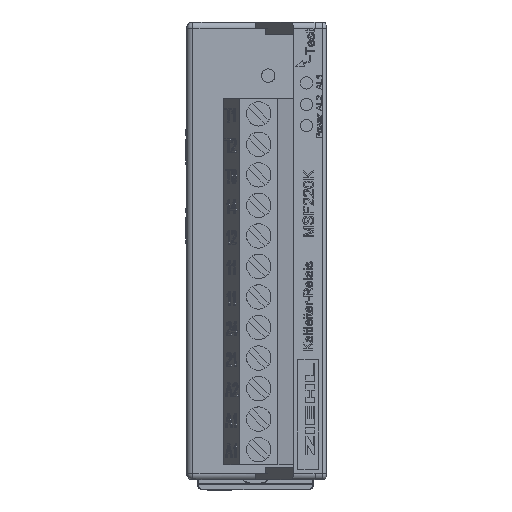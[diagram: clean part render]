
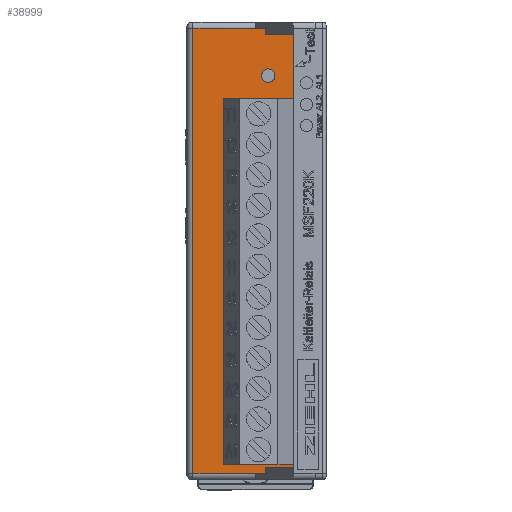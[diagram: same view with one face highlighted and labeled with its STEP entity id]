
A CAD part, left-side view. The second image highlights one B-rep face of the part: STEP entity #38999.
In plain terms, the highlighted planar face has unit normal (-1, 0, 0) as drawn and (1, 0, 0) by its records, which use the part's own axes.
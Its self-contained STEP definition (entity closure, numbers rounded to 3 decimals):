
#6317 = CARTESIAN_POINT ( 'NONE',  ( 30., -16.3, 35.5 ) ) ;
#6554 = DIRECTION ( 'NONE',  ( 0., 0., 1. ) ) ;
#6564 = EDGE_CURVE ( 'NONE', #33377, #138121, #71293, .T. ) ;
#16102 = CARTESIAN_POINT ( 'NONE',  ( 30., 1.2, -36.5 ) ) ;
#16814 = VECTOR ( 'NONE', #131906, 1000. ) ;
#17852 = DIRECTION ( 'NONE',  ( 0., -1., 0. ) ) ;
#19196 = LINE ( 'NONE', #62277, #63903 ) ;
#19956 = LINE ( 'NONE', #6317, #137907 ) ;
#20759 = VECTOR ( 'NONE', #84702, 1000. ) ;
#22157 = DIRECTION ( 'NONE',  ( 0., 0., 1. ) ) ;
#22793 = CARTESIAN_POINT ( 'NONE',  ( 30., -16.3, -35.5 ) ) ;
#28569 = EDGE_CURVE ( 'NONE', #45693, #95657, #49182, .T. ) ;
#30206 = LINE ( 'NONE', #103377, #130397 ) ;
#33084 = CARTESIAN_POINT ( 'NONE',  ( 30., 1.2, 37.5 ) ) ;
#33377 = VERTEX_POINT ( 'NONE', #38274 ) ;
#33788 = CARTESIAN_POINT ( 'NONE',  ( 30., -10.082, -36.5 ) ) ;
#34404 = CARTESIAN_POINT ( 'NONE',  ( 30., -14.3, 35.5 ) ) ;
#35099 = CARTESIAN_POINT ( 'NONE',  ( 30., -16.3, 36.5 ) ) ;
#35466 = ORIENTED_EDGE ( 'NONE', *, *, #143863, .T. ) ;
#37495 = LINE ( 'NONE', #127820, #53463 ) ;
#38274 = CARTESIAN_POINT ( 'NONE',  ( 30., -14.3, -36.5 ) ) ;
#38999 = ADVANCED_FACE ( 'NONE', ( #114860 ), #136473, .F. ) ;
#40892 = CARTESIAN_POINT ( 'NONE',  ( 30., -14.3, -35.5 ) ) ;
#45693 = VERTEX_POINT ( 'NONE', #76563 ) ;
#48081 = VECTOR ( 'NONE', #74002, 1000. ) ;
#49182 = LINE ( 'NONE', #93090, #20759 ) ;
#52725 = DIRECTION ( 'NONE',  ( 0., 1., 0. ) ) ;
#53463 = VECTOR ( 'NONE', #105321, 1000. ) ;
#53823 = VERTEX_POINT ( 'NONE', #128263 ) ;
#54449 = CARTESIAN_POINT ( 'NONE',  ( 30., -10.082, 36.5 ) ) ;
#60164 = CARTESIAN_POINT ( 'NONE',  ( 30., 0.2, -36.5 ) ) ;
#62277 = CARTESIAN_POINT ( 'NONE',  ( 30., -16.3, -35.5 ) ) ;
#63903 = VECTOR ( 'NONE', #17852, 1000. ) ;
#63969 = ORIENTED_EDGE ( 'NONE', *, *, #116935, .T. ) ;
#71293 = LINE ( 'NONE', #109933, #119618 ) ;
#72967 = CARTESIAN_POINT ( 'NONE',  ( 30., -14.3, 35.5 ) ) ;
#74002 = DIRECTION ( 'NONE',  ( 0., 1., 0. ) ) ;
#74519 = CARTESIAN_POINT ( 'NONE',  ( 30., 0.2, 36.5 ) ) ;
#74716 = EDGE_CURVE ( 'NONE', #53823, #106254, #19956, .T. ) ;
#76563 = CARTESIAN_POINT ( 'NONE',  ( 30., -14.3, 36.5 ) ) ;
#77136 = AXIS2_PLACEMENT_3D ( 'NONE', #33084, #147897, #137415 ) ;
#77302 = ORIENTED_EDGE ( 'NONE', *, *, #127908, .T. ) ;
#77819 = LINE ( 'NONE', #122746, #134986 ) ;
#82893 = VERTEX_POINT ( 'NONE', #22793 ) ;
#84702 = DIRECTION ( 'NONE',  ( 0., 1., 0. ) ) ;
#86281 = ORIENTED_EDGE ( 'NONE', *, *, #74716, .F. ) ;
#89745 = ORIENTED_EDGE ( 'NONE', *, *, #106533, .F. ) ;
#93090 = CARTESIAN_POINT ( 'NONE',  ( 30., -16.3, 36.5 ) ) ;
#95657 = VERTEX_POINT ( 'NONE', #54449 ) ;
#95876 = EDGE_CURVE ( 'NONE', #106254, #45693, #102636, .T. ) ;
#99979 = LINE ( 'NONE', #35099, #125104 ) ;
#101933 = VERTEX_POINT ( 'NONE', #74519 ) ;
#102636 = LINE ( 'NONE', #72967, #16814 ) ;
#103377 = CARTESIAN_POINT ( 'NONE',  ( 30., 1.2, 36.5 ) ) ;
#104913 = EDGE_CURVE ( 'NONE', #82893, #53823, #99979, .T. ) ;
#105321 = DIRECTION ( 'NONE',  ( 0., 0., 1. ) ) ;
#106254 = VERTEX_POINT ( 'NONE', #34404 ) ;
#106533 = EDGE_CURVE ( 'NONE', #138121, #82893, #19196, .T. ) ;
#109208 = DIRECTION ( 'NONE',  ( 0., 1., 0. ) ) ;
#109446 = EDGE_LOOP ( 'NONE', ( #35466, #63969, #145993, #116176, #86281, #120903, #89745, #127621, #141431, #77302 ) ) ;
#109933 = CARTESIAN_POINT ( 'NONE',  ( 30., -14.3, -37.5 ) ) ;
#114860 = FACE_OUTER_BOUND ( 'NONE', #109446, .T. ) ;
#114884 = DIRECTION ( 'NONE',  ( 0., -1., 0. ) ) ;
#116176 = ORIENTED_EDGE ( 'NONE', *, *, #95876, .F. ) ;
#116935 = EDGE_CURVE ( 'NONE', #101933, #95657, #30206, .T. ) ;
#118336 = VERTEX_POINT ( 'NONE', #60164 ) ;
#119026 = EDGE_CURVE ( 'NONE', #33377, #142387, #77819, .T. ) ;
#119618 = VECTOR ( 'NONE', #6554, 1000. ) ;
#120903 = ORIENTED_EDGE ( 'NONE', *, *, #104913, .F. ) ;
#122746 = CARTESIAN_POINT ( 'NONE',  ( 30., -16.3, -36.5 ) ) ;
#125104 = VECTOR ( 'NONE', #22157, 1000. ) ;
#127621 = ORIENTED_EDGE ( 'NONE', *, *, #6564, .F. ) ;
#127820 = CARTESIAN_POINT ( 'NONE',  ( 30., 0.2, 37.5 ) ) ;
#127908 = EDGE_CURVE ( 'NONE', #142387, #118336, #141020, .T. ) ;
#128263 = CARTESIAN_POINT ( 'NONE',  ( 30., -16.3, 35.5 ) ) ;
#130397 = VECTOR ( 'NONE', #114884, 1000. ) ;
#131906 = DIRECTION ( 'NONE',  ( 0., 0., 1. ) ) ;
#134986 = VECTOR ( 'NONE', #52725, 1000. ) ;
#136473 = PLANE ( 'NONE',  #77136 ) ;
#137415 = DIRECTION ( 'NONE',  ( 0., 0., 1. ) ) ;
#137907 = VECTOR ( 'NONE', #109208, 1000. ) ;
#138121 = VERTEX_POINT ( 'NONE', #40892 ) ;
#141020 = LINE ( 'NONE', #16102, #48081 ) ;
#141431 = ORIENTED_EDGE ( 'NONE', *, *, #119026, .T. ) ;
#142387 = VERTEX_POINT ( 'NONE', #33788 ) ;
#143863 = EDGE_CURVE ( 'NONE', #118336, #101933, #37495, .T. ) ;
#145993 = ORIENTED_EDGE ( 'NONE', *, *, #28569, .F. ) ;
#147897 = DIRECTION ( 'NONE',  ( -1., 0., 0. ) ) ;
